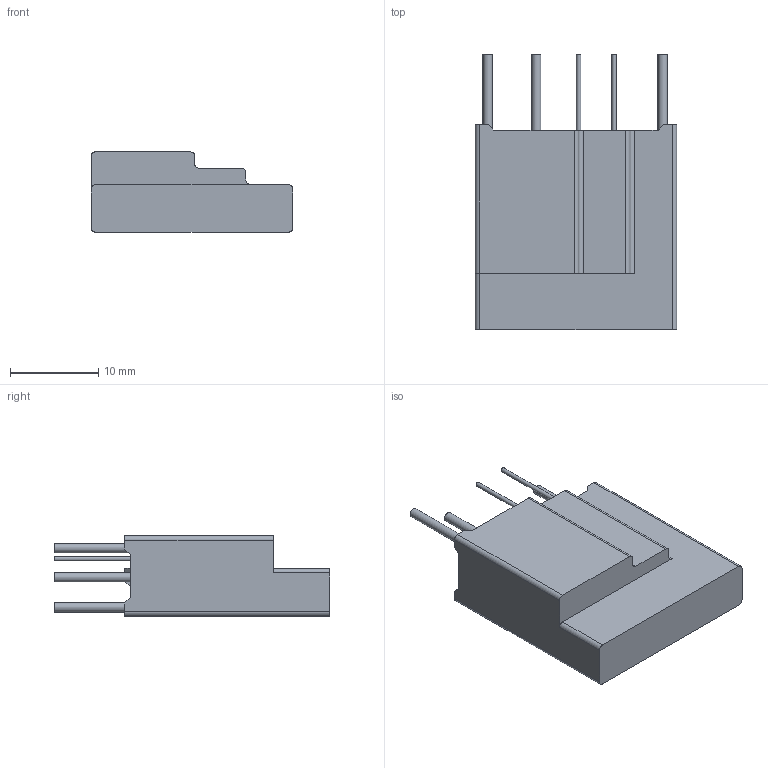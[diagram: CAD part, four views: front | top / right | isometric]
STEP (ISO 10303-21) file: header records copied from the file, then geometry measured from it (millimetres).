
FILE_DESCRIPTION(/* description */ ('Unknown'),/* implementation_level */ '2;1');
FILE_NAME(/* name */ 'TFMOV20S330-IT-5-001',/* time_stamp */ '2024-06-24T17:29:51+08:00',/* author */ ('Unknown'),/* organization */ ('Unknown'),/* preprocessor_version */ 'ST-DEVELOPER v16.7',/* originating_system */ 'Solid Edge',/* authorisation */ 'Unknown');
FILE_SCHEMA (('AUTOMOTIVE_DESIGN {1 0 10303 214 3 1 1}'));
Length unit declared in the file: millimetre
Products named in the file (1): TFMOV20S330-IT-5-001
Bounding box: 22.8 x 31.2 x 9.1 mm (x, y, z)
Volume: 1279.5 mm3; surface area: 3325.6 mm2
Topology: 1 solids, 2 shells, 105 faces, 287 edges, 191 vertices
Faces by surface type: plane 80, cylinder 25
Full cylindrical faces by diameter (mm): 0.5 x2, 1.05 x3
Entity records: 3298 total; most frequent: CARTESIAN_POINT 577, ORIENTED_EDGE 562, DIRECTION 544, EDGE_CURVE 281, LINE 230, VECTOR 230, VERTEX_POINT 190, AXIS2_PLACEMENT_3D 157
